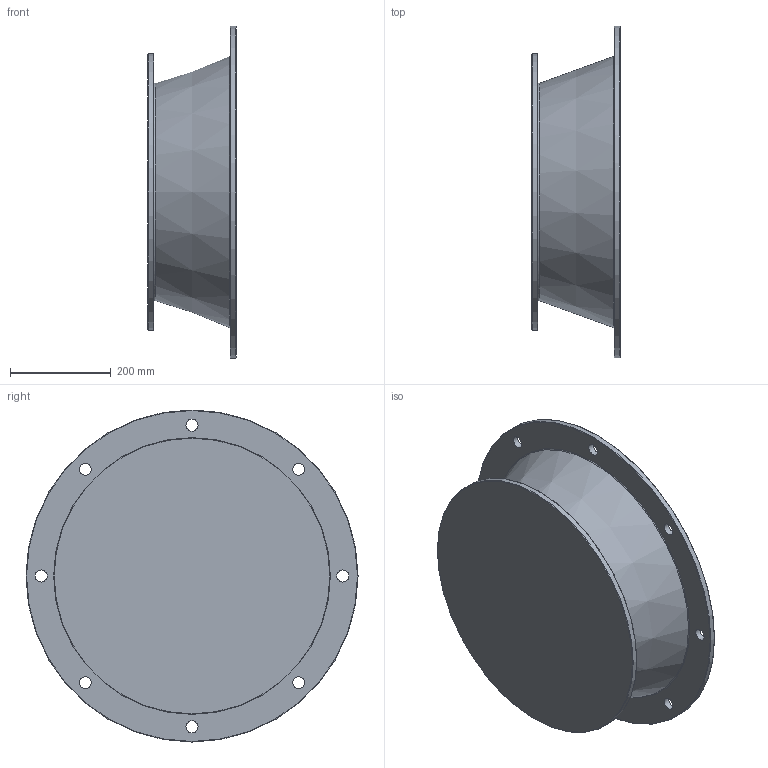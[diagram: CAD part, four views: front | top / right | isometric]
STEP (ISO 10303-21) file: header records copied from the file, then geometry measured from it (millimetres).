
FILE_DESCRIPTION((''),'2;1');
FILE_NAME('D:\PAWEŁ\ZLECENIA\DualSystem\001 Modele\DKAB150_\DK_150_STEP\315S_B5_L175,5.stp','2011-12-19T15:55:00',('Pawe'),(''),'Autodesk Inventor 2009','Autodesk Inventor 2009','');
FILE_SCHEMA(('AUTOMOTIVE_DESIGN { 1 0 10303 214 1 1 1 1 }'));
Length unit declared in the file: millimetre
Products named in the file (1): 315S_B5_L175,5
Bounding box: 175.5 x 660 x 660 mm (x, y, z)
Volume: 6242298.4 mm3; surface area: 1318655 mm2
Topology: 1 solids, 1 shells, 34 faces, 70 edges, 44 vertices
Faces by surface type: plane 11, bspline 10, cylinder 6, torus 5, cone 2
Full cylindrical faces by diameter (mm): 95 x1, 527.234 x1, 540 x1, 550 x1, 660 x1
Entity records: 1083 total; most frequent: CARTESIAN_POINT 369, DIRECTION 136, ORIENTED_EDGE 96, EDGE_LOOP 78, AXIS2_PLACEMENT_3D 63, EDGE_CURVE 48, VERTEX_POINT 44, FACE_BOUND 44
